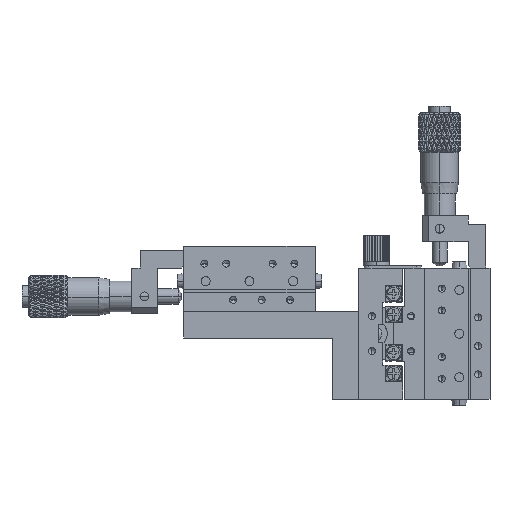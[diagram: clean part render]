
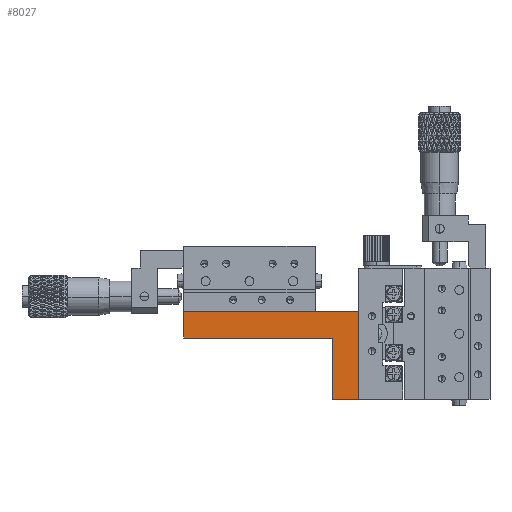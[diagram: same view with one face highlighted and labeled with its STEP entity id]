
A CAD part, left-side view. The second image highlights one B-rep face of the part: STEP entity #8027.
In plain terms, the highlighted planar face has unit normal (-1, 0, 0) as drawn and (1, 0, 0) by its records, which use the part's own axes.
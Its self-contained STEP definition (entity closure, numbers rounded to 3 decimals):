
#40 = VECTOR ( 'NONE', #6465, 1000. ) ;
#1506 = VERTEX_POINT ( 'NONE', #29964 ) ;
#2813 = DIRECTION ( 'NONE',  ( 1., 0., 0. ) ) ;
#4131 = CARTESIAN_POINT ( 'NONE',  ( 15., 0., 0. ) ) ;
#4895 = CARTESIAN_POINT ( 'NONE',  ( 15., 6., 0. ) ) ;
#5169 = VECTOR ( 'NONE', #26020, 1000. ) ;
#6465 = DIRECTION ( 'NONE',  ( 0., 1., 0. ) ) ;
#6466 = CARTESIAN_POINT ( 'NONE',  ( 15., 6., -14. ) ) ;
#6531 = LINE ( 'NONE', #6466, #36085 ) ;
#6698 = EDGE_CURVE ( 'NONE', #16485, #46144, #44695, .T. ) ;
#8027 = ADVANCED_FACE ( 'NONE', ( #39365 ), #47276, .T. ) ;
#8378 = ORIENTED_EDGE ( 'NONE', *, *, #39895, .T. ) ;
#8649 = DIRECTION ( 'NONE',  ( 0., -1., 0. ) ) ;
#9060 = LINE ( 'NONE', #4895, #26474 ) ;
#10793 = ORIENTED_EDGE ( 'NONE', *, *, #41513, .T. ) ;
#11797 = AXIS2_PLACEMENT_3D ( 'NONE', #21297, #2813, #28768 ) ;
#11802 = EDGE_CURVE ( 'NONE', #33994, #1506, #28472, .T. ) ;
#14057 = VECTOR ( 'NONE', #39870, 1000. ) ;
#14428 = CARTESIAN_POINT ( 'NONE',  ( 15., 6., -14. ) ) ;
#16485 = VERTEX_POINT ( 'NONE', #43396 ) ;
#17984 = CARTESIAN_POINT ( 'NONE',  ( 15., 40., -20. ) ) ;
#19122 = CARTESIAN_POINT ( 'NONE',  ( 15., 0., 0. ) ) ;
#20520 = VERTEX_POINT ( 'NONE', #48032 ) ;
#21297 = CARTESIAN_POINT ( 'NONE',  ( 15., 0., 0. ) ) ;
#22251 = CARTESIAN_POINT ( 'NONE',  ( 15., 40., -14. ) ) ;
#24866 = ORIENTED_EDGE ( 'NONE', *, *, #6698, .T. ) ;
#26020 = DIRECTION ( 'NONE',  ( 0., -1., 0. ) ) ;
#26474 = VECTOR ( 'NONE', #8649, 1000. ) ;
#28470 = LINE ( 'NONE', #28693, #40 ) ;
#28472 = LINE ( 'NONE', #19122, #35956 ) ;
#28693 = CARTESIAN_POINT ( 'NONE',  ( 15., 0., -20. ) ) ;
#28694 = DIRECTION ( 'NONE',  ( 0., 0., 1. ) ) ;
#28768 = DIRECTION ( 'NONE',  ( 0., 0., -1. ) ) ;
#29377 = ORIENTED_EDGE ( 'NONE', *, *, #11802, .T. ) ;
#29964 = CARTESIAN_POINT ( 'NONE',  ( 15., 0., -20. ) ) ;
#30004 = ORIENTED_EDGE ( 'NONE', *, *, #33751, .T. ) ;
#32791 = EDGE_LOOP ( 'NONE', ( #8378, #29377, #37000, #10793, #24866, #30004 ) ) ;
#33751 = EDGE_CURVE ( 'NONE', #46144, #20520, #6531, .T. ) ;
#33994 = VERTEX_POINT ( 'NONE', #4131 ) ;
#35956 = VECTOR ( 'NONE', #41315, 1000. ) ;
#36085 = VECTOR ( 'NONE', #28694, 1000. ) ;
#37000 = ORIENTED_EDGE ( 'NONE', *, *, #43567, .T. ) ;
#39365 = FACE_OUTER_BOUND ( 'NONE', #32791, .T. ) ;
#39870 = DIRECTION ( 'NONE',  ( 0., 0., 1. ) ) ;
#39895 = EDGE_CURVE ( 'NONE', #20520, #33994, #9060, .T. ) ;
#41315 = DIRECTION ( 'NONE',  ( 0., 0., -1. ) ) ;
#41513 = EDGE_CURVE ( 'NONE', #45438, #16485, #43682, .T. ) ;
#43396 = CARTESIAN_POINT ( 'NONE',  ( 15., 40., -14. ) ) ;
#43567 = EDGE_CURVE ( 'NONE', #1506, #45438, #28470, .T. ) ;
#43682 = LINE ( 'NONE', #17984, #14057 ) ;
#44695 = LINE ( 'NONE', #22251, #5169 ) ;
#45438 = VERTEX_POINT ( 'NONE', #47387 ) ;
#46144 = VERTEX_POINT ( 'NONE', #14428 ) ;
#47276 = PLANE ( 'NONE',  #11797 ) ;
#47387 = CARTESIAN_POINT ( 'NONE',  ( 15., 40., -20. ) ) ;
#48032 = CARTESIAN_POINT ( 'NONE',  ( 15., 6., 0. ) ) ;
